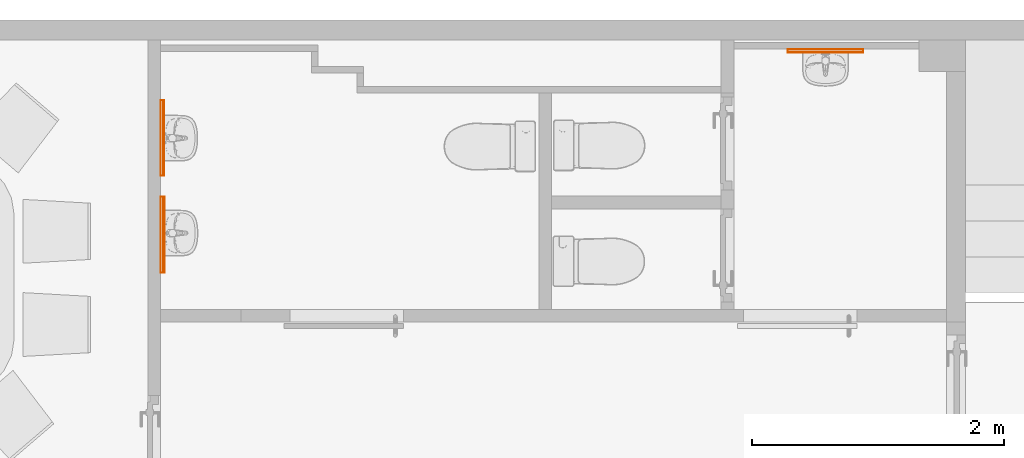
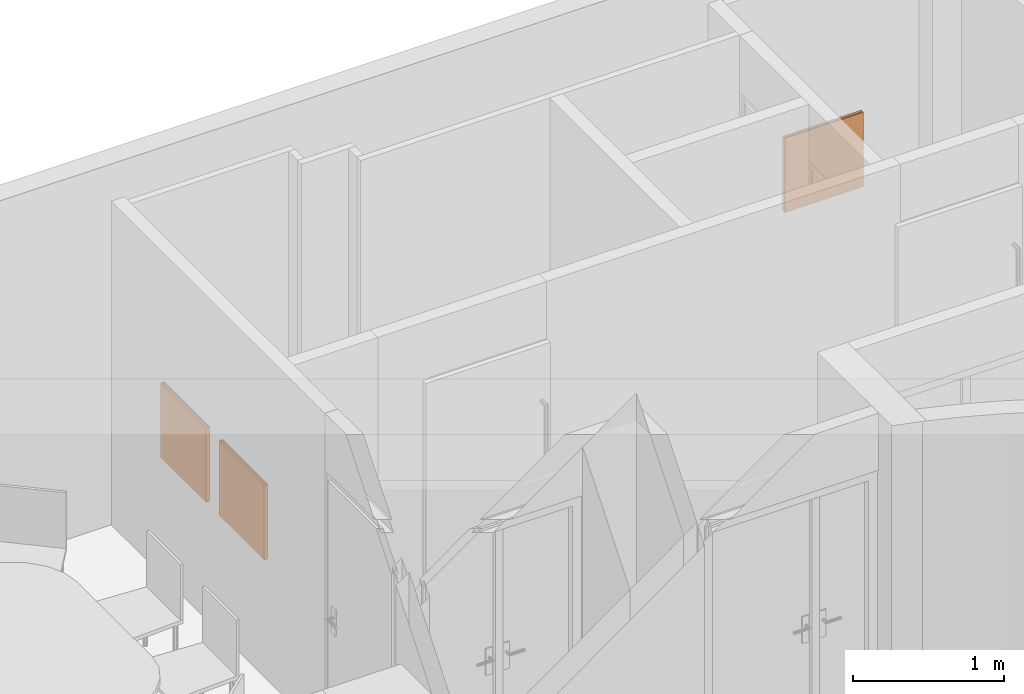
"""IFC4 building model written with IfcOpenShell, lengths in metres."""

from ifc_helpers import new_model, entity, si_unit, converted_unit, derived_unit, frame, origin, origin_with_axes, place, context, subcontext, project, spatial, open_shell, surface_model, source, transform, mapped, element, save


model = new_model("IFC4")

# Units and contexts
model_context = context("Model", 3, precision=1e-05, world=origin())
body_context = subcontext(model_context, "Body", "Model", "MODEL_VIEW")
ifc_project = project(units=[si_unit("LENGTHUNIT", "METRE"), si_unit("AREAUNIT", "SQUARE_METRE"), si_unit("VOLUMEUNIT", "CUBIC_METRE"), si_unit("MASSUNIT", "GRAM", prefix="KILO"), converted_unit("PLANEANGLEUNIT", "DEGREE", entity("IfcPlaneAngleMeasure", 0.0174532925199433), si_unit("PLANEANGLEUNIT", "RADIAN"), dimensions=[0, 0, 0, 0, 0, 0, 0]), derived_unit("THERMALTRANSMITTANCEUNIT", [(si_unit("POWERUNIT", "WATT"), 1), (si_unit("THERMODYNAMICTEMPERATUREUNIT", "KELVIN"), -1), (si_unit("LENGTHUNIT", "METRE"), -2)]), derived_unit("VOLUMETRICFLOWRATEUNIT", [(si_unit("LENGTHUNIT", "METRE"), 3), (converted_unit("TIMEUNIT", "hour", entity("IfcTimeMeasure", 3600.0), si_unit("TIMEUNIT", "SECOND"), dimensions=[0, 0, 1, 0, 0, 0, 0]), -1), (si_unit("LENGTHUNIT", "METRE"), -1)])], contexts=[model_context])

# Building, storeys
building_placement = place(None, origin())
building = spatial("IfcBuilding", under=ifc_project, at=building_placement, Name="HABITATGE PLURIFAMILIAR", CompositionType="ELEMENT")
storey_1_placement = place(building_placement, frame((0.0, 0.0, 18.29)))
storey_1 = spatial("IfcBuildingStorey", under=building, at=storey_1_placement, Name="PLANTA CINQUENA", CompositionType="ELEMENT", Elevation=18.29)
storey_2_placement = place(storey_1_placement, frame((0.0, 0.0, 15.28)))
storey_2 = spatial("IfcBuildingStorey", under=storey_1, at=storey_2_placement, Name="NOU", CompositionType="PARTIAL")

# Proxies
shared_shape = source(origin_with_axes(), body_context, "Body", "SurfaceModel", [
    surface_model("IfcShellBasedSurfaceModel", [(0.6, 0.01, 0.6), (0.6, 0.01, 0.0), (0.0, 0.01, 0.0), (0.0, 0.01, 0.6), (0.0, 0.03, 0.0), (0.0, 0.03, 0.6), (0.6, 0.03, 0.0), (0.6, 0.03, 0.6)], [open_shell([[[0, 1, 2, 3]], [[3, 2, 4, 5]], [[5, 4, 6, 7]], [[7, 6, 1, 0]]], orient=[[False], [False], [False], [False]])]),
    surface_model("IfcShellBasedSurfaceModel", [(0.0, 0.0, 0.0), (0.6, 0.0, 0.0), (0.6, 0.01, 0.0), (0.0, 0.01, 0.0), (0.0, 0.0, 0.6), (0.6, 0.0, 0.6), (0.6, 0.01, 0.6), (0.0, 0.01, 0.6)], [open_shell([[[0, 1, 2, 3]], [[0, 4, 5, 1]], [[1, 5, 6, 2]], [[2, 6, 7, 3]], [[3, 7, 4, 0]]], orient=[[False], [False], [False], [False], [False]])]),
])
for number, where, z_axis, x_axis, name in (
    (1, (404.466984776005, 26.9905155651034, -14.48), (0.0, 0.0, 1.0), (1.22464679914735e-16, 1.0, 0.0), "Mirall P5"),
    (2, (404.468308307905, 26.2238560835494, -14.48), (0.0, 0.0, 1.0), (1.22464679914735e-16, 1.0, 0.0), "Mirall P5"),
):
    element("IfcBuildingElementProxy", number, at=place(storey_2_placement, frame(where, z_axis=z_axis, x_axis=x_axis)), inside=storey_2, Name=name, context=body_context, shape_type="MappedRepresentation", body=[
        mapped(shared_shape, transform((0.0, 0.0, 0.0), x_axis=(1.0, 0.0, 0.0), y_axis=(0.0, 1.0, 0.0), z_axis=(0.0, 0.0, 1.0), scale=1.0)),
    ])
proxy_placement = place(storey_2_placement, frame((409.41617090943, 27.9678681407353, -14.48)))
element("IfcBuildingElementProxy", 3, at=proxy_placement, inside=storey_2, Name="Mirall P5", context=body_context, shape_type="MappedRepresentation", body=[
    mapped(shared_shape, transform((0.0, 0.0, 0.0), x_axis=(1.0, 0.0, 0.0), y_axis=(0.0, 1.0, 0.0), z_axis=(0.0, 0.0, 1.0), scale=1.0)),
])

save(model, "model.ifc")
